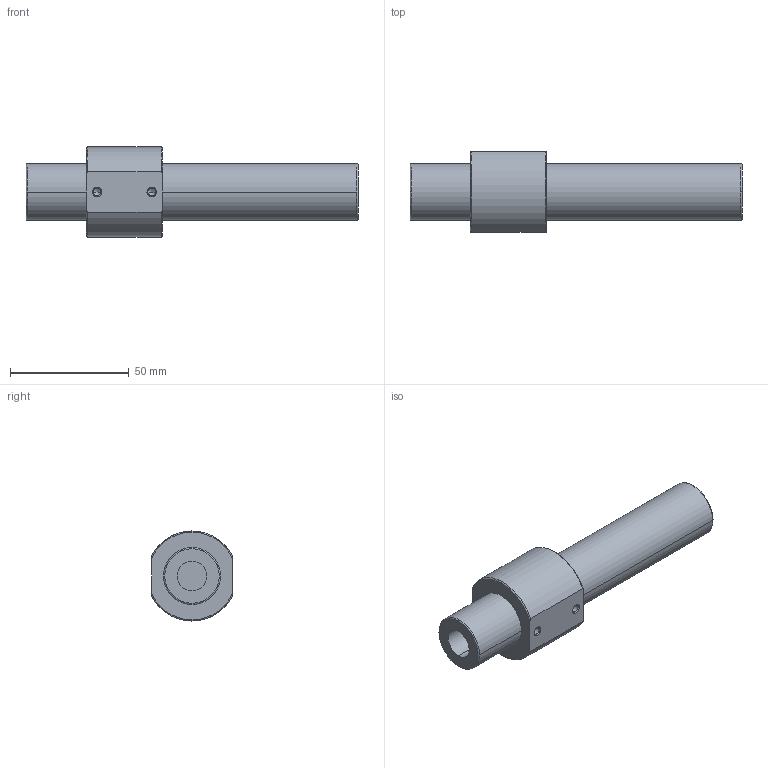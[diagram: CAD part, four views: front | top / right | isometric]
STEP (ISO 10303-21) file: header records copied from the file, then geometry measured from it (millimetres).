
FILE_DESCRIPTION (( 'STEP AP214' ), '1' );
FILE_NAME ('MT56-N.STEP', '2025-04-23T12:34:20', ( '' ), ( '' ), 'SwSTEP 2.0', 'SolidWorks 2018', '' );
FILE_SCHEMA (( 'AUTOMOTIVE_DESIGN' ));
Length unit declared in the file: millimetre
Products named in the file (1): MT56-N
Bounding box: 140 x 34 x 38 mm (x, y, z)
Volume: 76229.5 mm3; surface area: 16511.1 mm2
Topology: 1 solids, 1 shells, 57 faces, 130 edges, 80 vertices
Faces by surface type: cylinder 20, cone 14, torus 12, plane 11
Entity records: 1856 total; most frequent: CARTESIAN_POINT 500, DIRECTION 312, ORIENTED_EDGE 252, AXIS2_PLACEMENT_3D 136, EDGE_CURVE 126, VERTEX_POINT 80, CIRCLE 78, EDGE_LOOP 66
